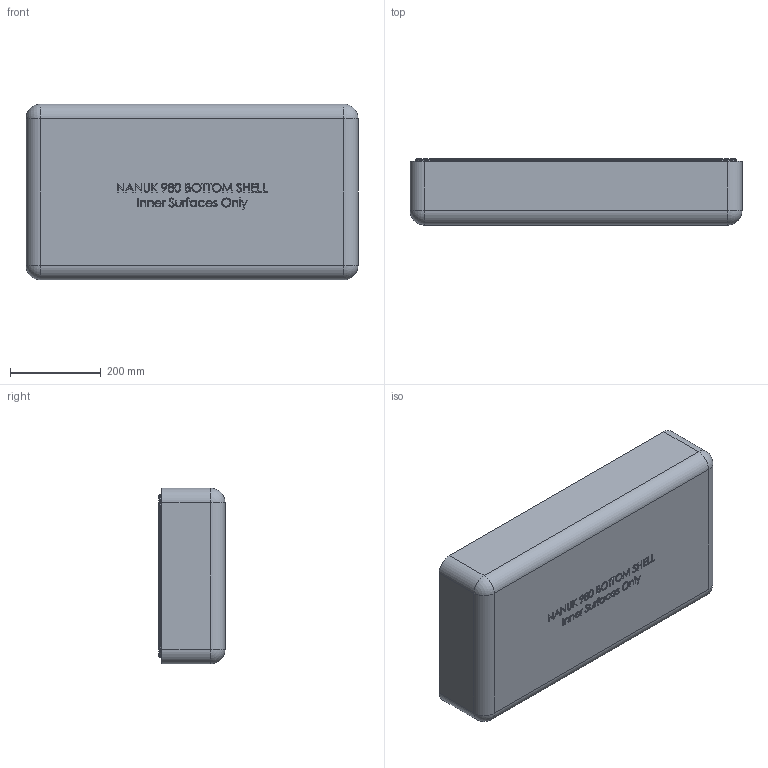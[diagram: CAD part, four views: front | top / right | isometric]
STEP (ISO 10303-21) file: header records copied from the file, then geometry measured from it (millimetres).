
FILE_DESCRIPTION (( 'STEP AP203' ), '1' );
FILE_NAME ('NANUK_980_Bottom Shell_INNER SURFS_Steps.STEP', '2023-01-24T19:59:57', ( 'Sylvain' ), ( '' ), 'SwSTEP 2.0', 'SolidWorks 2022', '' );
FILE_SCHEMA (( 'CONFIG_CONTROL_DESIGN' ));
Products named in the file (1): NANUK_980_Bottom Shell_INNER SURFS_Steps
Bounding box: 731.74 x 145.55 x 387.25 mm (x, y, z)
Volume: 12190117.7 mm3; surface area: 1092578.6 mm2
Topology: 1 solids, 1 shells, 2152 faces, 5361 edges, 3112 vertices
Faces by surface type: bspline 1093, plane 505, cylinder 350, cone 90, torus 82, sphere 32
Entity records: 107421 total; most frequent: CARTESIAN_POINT 65546, ORIENTED_EDGE 10354, DIRECTION 6283, EDGE_CURVE 5177, VERTEX_POINT 3112, AXIS2_PLACEMENT_3D 2248, EDGE_LOOP 2239, ADVANCED_FACE 2152
